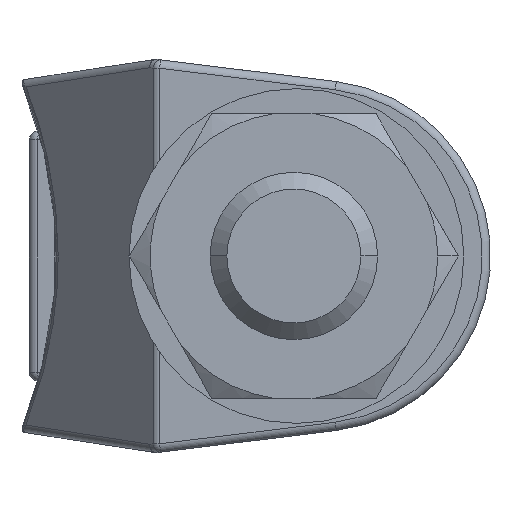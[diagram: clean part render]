
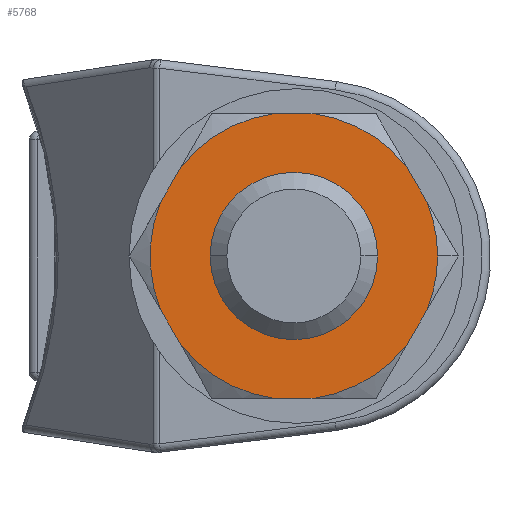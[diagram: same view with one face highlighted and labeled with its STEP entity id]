
A CAD part, front view. The second image highlights one B-rep face of the part: STEP entity #5768.
In plain terms, the highlighted planar face has unit normal (0, -1, 0).
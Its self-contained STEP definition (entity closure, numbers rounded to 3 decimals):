
#5011=CARTESIAN_POINT('',(-1.241,-6.35,2.15));
#5012=DIRECTION('',(0.,1.,0.));
#5013=DIRECTION('',(0.928,0.,0.373));
#5014=AXIS2_PLACEMENT_3D('',#5011,#5012,#5013);
#5019=CARTESIAN_POINT('',(-1.241,-6.35,
2.15));
#5020=DIRECTION('',(0.,1.,0.));
#5021=DIRECTION('',(1.,0.,0.));
#5022=AXIS2_PLACEMENT_3D('',#5019,#5020,#5021);
#5027=DIRECTION('',(-0.5,0.,-0.866));
#5028=VECTOR('',#5027,2.41);
#5029=CARTESIAN_POINT('',(6.722,-6.35,
-1.056));
#5030=LINE('',#5029,#5028);
#5034=CARTESIAN_POINT('',(-1.241,-6.35,
2.15));
#5035=DIRECTION('',(0.,1.,0.));
#5036=DIRECTION('',(0.787,0.,-0.617));
#5037=AXIS2_PLACEMENT_3D('',#5034,#5035,#5036);
#5042=CARTESIAN_POINT('',(-1.241,-6.35,
2.15));
#5043=DIRECTION('',(0.,1.,0.));
#5044=DIRECTION('',(-0.14,0.,-0.99));
#5045=AXIS2_PLACEMENT_3D('',#5042,#5043,#5044);
#5050=DIRECTION('',(-0.5,0.,0.866));
#5051=VECTOR('',#5050,2.41);
#5052=CARTESIAN_POINT('',(-8.,-6.35,
-3.144));
#5053=LINE('',#5052,#5051);
#5057=CARTESIAN_POINT('',(-1.241,-6.35,2.15));
#5058=DIRECTION('',(0.,1.,0.));
#5059=DIRECTION('',(-0.928,0.,-0.373));
#5060=AXIS2_PLACEMENT_3D('',#5057,#5058,#5059);
#5065=DIRECTION('',(0.5,0.,0.866));
#5066=VECTOR('',#5065,2.41);
#5067=CARTESIAN_POINT('',(-9.205,-6.35,
5.356));
#5068=LINE('',#5067,#5066);
#5072=CARTESIAN_POINT('',(-1.241,-6.35,
2.15));
#5073=DIRECTION('',(0.,1.,0.));
#5074=DIRECTION('',(-0.787,0.,0.617));
#5075=AXIS2_PLACEMENT_3D('',#5072,#5073,#5074);
#5080=CARTESIAN_POINT('',(-1.241,-6.35,
2.15));
#5081=DIRECTION('',(0.,1.,0.));
#5082=DIRECTION('',(0.14,0.,0.99));
#5083=AXIS2_PLACEMENT_3D('',#5080,#5081,#5082);
#5088=DIRECTION('',(0.5,0.,-0.866));
#5089=VECTOR('',#5088,2.41);
#5090=CARTESIAN_POINT('',(5.517,-6.35,7.444));
#5091=LINE('',#5090,#5089);
#5095=CARTESIAN_POINT('',(-1.241,-6.35,2.15));
#5096=DIRECTION('',(0.,-1.,0.));
#5097=DIRECTION('',(-1.,0.,0.));
#5098=AXIS2_PLACEMENT_3D('',#5095,#5096,#5097);
#5103=CARTESIAN_POINT('',(-1.241,-6.35,2.15));
#5104=DIRECTION('',(0.,-1.,0.));
#5105=DIRECTION('',(1.,0.,0.));
#5106=AXIS2_PLACEMENT_3D('',#5103,#5104,#5105);
#5292=DIRECTION('',(-1.,0.,0.));
#5293=VECTOR('',#5292,2.41);
#5294=CARTESIAN_POINT('',(-0.036,-6.35,
10.65));
#5295=LINE('',#5294,#5293);
#5489=DIRECTION('',(1.,0.,0.));
#5490=VECTOR('',#5489,2.41);
#5491=CARTESIAN_POINT('',(-2.446,-6.35,
-6.35));
#5492=LINE('',#5491,#5490);
#5633=CARTESIAN_POINT('',(6.722,-6.35,5.356));
#5634=CARTESIAN_POINT('',(7.344,-6.35,2.15));
#5635=VERTEX_POINT('',#5633);
#5636=VERTEX_POINT('',#5634);
#5637=CARTESIAN_POINT('',(6.722,-6.35,
-1.056));
#5638=VERTEX_POINT('',#5637);
#5639=CARTESIAN_POINT('',(5.517,-6.35,
-3.144));
#5640=VERTEX_POINT('',#5639);
#5641=CARTESIAN_POINT('',(-0.036,-6.35,
-6.35));
#5642=VERTEX_POINT('',#5641);
#5643=CARTESIAN_POINT('',(-2.446,-6.35,
-6.35));
#5644=CARTESIAN_POINT('',(-8.,-6.35,
-3.144));
#5645=VERTEX_POINT('',#5643);
#5646=VERTEX_POINT('',#5644);
#5647=CARTESIAN_POINT('',(-9.205,-6.35,
-1.056));
#5648=VERTEX_POINT('',#5647);
#5649=CARTESIAN_POINT('',(-9.205,-6.35,
5.356));
#5650=VERTEX_POINT('',#5649);
#5651=CARTESIAN_POINT('',(-8.,-6.35,
7.444));
#5652=VERTEX_POINT('',#5651);
#5653=CARTESIAN_POINT('',(-2.446,-6.35,10.65));
#5654=VERTEX_POINT('',#5653);
#5655=CARTESIAN_POINT('',(-0.036,-6.35,
10.65));
#5656=CARTESIAN_POINT('',(5.517,-6.35,7.444));
#5657=VERTEX_POINT('',#5655);
#5658=VERTEX_POINT('',#5656);
#5659=CARTESIAN_POINT('',(-6.241,-6.35,2.15));
#5660=CARTESIAN_POINT('',(3.759,-6.35,2.15));
#5661=VERTEX_POINT('',#5659);
#5662=VERTEX_POINT('',#5660);
#5730=CARTESIAN_POINT('',(-1.242,-6.35,2.15));
#5731=DIRECTION('',(0.,1.,0.));
#5732=DIRECTION('',(0.,0.,1.));
#5733=AXIS2_PLACEMENT_3D('',#5730,#5731,#5732);
#5734=PLANE('',#5733);
#5736=ORIENTED_EDGE('',*,*,#5735,.T.);
#5738=ORIENTED_EDGE('',*,*,#5737,.T.);
#5740=ORIENTED_EDGE('',*,*,#5739,.T.);
#5742=ORIENTED_EDGE('',*,*,#5741,.T.);
#5744=ORIENTED_EDGE('',*,*,#5743,.F.);
#5746=ORIENTED_EDGE('',*,*,#5745,.T.);
#5748=ORIENTED_EDGE('',*,*,#5747,.T.);
#5750=ORIENTED_EDGE('',*,*,#5749,.T.);
#5752=ORIENTED_EDGE('',*,*,#5751,.T.);
#5754=ORIENTED_EDGE('',*,*,#5753,.T.);
#5756=ORIENTED_EDGE('',*,*,#5755,.F.);
#5758=ORIENTED_EDGE('',*,*,#5757,.T.);
#5760=ORIENTED_EDGE('',*,*,#5759,.T.);
#5761=EDGE_LOOP('',(#5736,#5738,#5740,#5742,#5744,#5746,#5748,#5750,#5752,#5754,
#5756,#5758,#5760));
#5762=FACE_OUTER_BOUND('',#5761,.F.);
#5764=ORIENTED_EDGE('',*,*,#5763,.T.);
#5765=ORIENTED_EDGE('',*,*,#5719,.T.);
#5766=EDGE_LOOP('',(#5764,#5765));
#5767=FACE_BOUND('',#5766,.F.);
#5015=CIRCLE('',#5014,8.585);
#5023=CIRCLE('',#5022,8.585);
#5038=CIRCLE('',#5037,8.585);
#5046=CIRCLE('',#5045,8.585);
#5061=CIRCLE('',#5060,8.585);
#5076=CIRCLE('',#5075,8.585);
#5084=CIRCLE('',#5083,8.585);
#5099=CIRCLE('',#5098,5.);
#5107=CIRCLE('',#5106,5.);
#5719=EDGE_CURVE('',#5662,#5661,#5107,.T.);
#5735=EDGE_CURVE('',#5635,#5636,#5015,.T.);
#5737=EDGE_CURVE('',#5636,#5638,#5023,.T.);
#5739=EDGE_CURVE('',#5638,#5640,#5030,.T.);
#5741=EDGE_CURVE('',#5640,#5642,#5038,.T.);
#5743=EDGE_CURVE('',#5645,#5642,#5492,.T.);
#5745=EDGE_CURVE('',#5645,#5646,#5046,.T.);
#5747=EDGE_CURVE('',#5646,#5648,#5053,.T.);
#5749=EDGE_CURVE('',#5648,#5650,#5061,.T.);
#5751=EDGE_CURVE('',#5650,#5652,#5068,.T.);
#5753=EDGE_CURVE('',#5652,#5654,#5076,.T.);
#5755=EDGE_CURVE('',#5657,#5654,#5295,.T.);
#5757=EDGE_CURVE('',#5657,#5658,#5084,.T.);
#5759=EDGE_CURVE('',#5658,#5635,#5091,.T.);
#5763=EDGE_CURVE('',#5661,#5662,#5099,.T.);
#5768=ADVANCED_FACE('',(#5762,#5767),#5734,.F.);
